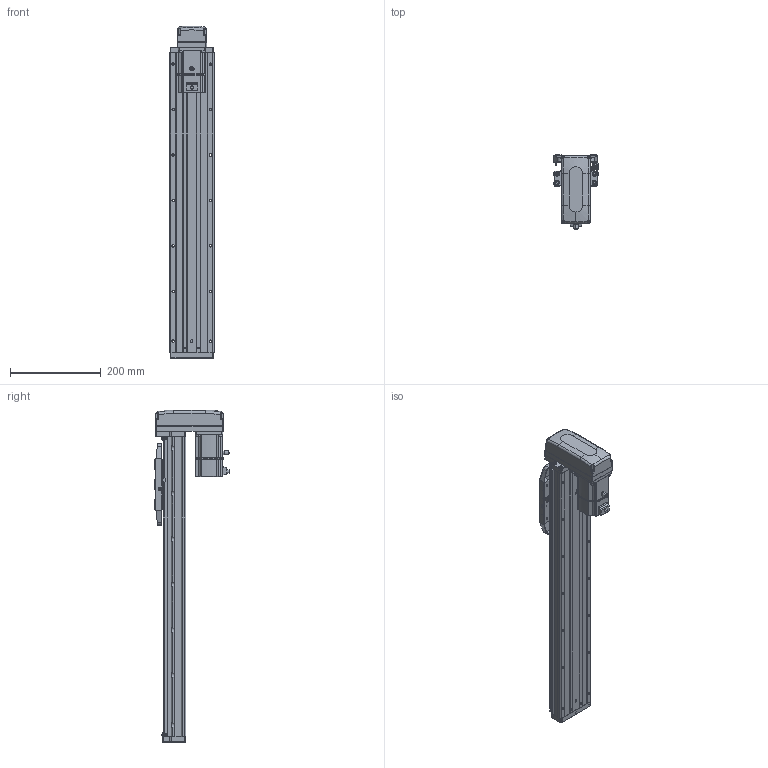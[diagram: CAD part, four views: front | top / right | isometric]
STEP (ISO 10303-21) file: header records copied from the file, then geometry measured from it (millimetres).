
FILE_DESCRIPTION (( 'STEP AP203' ), '1' );
FILE_NAME ('CTHA100-450-BM-M20-C4L.step', '2022-07-06T09:04:05', ( '微软用户' ), ( '微软中国' ), 'SwSTEP 2.0', 'SolidWorks 2020', '' );
FILE_SCHEMA (( 'CONFIG_CONTROL_DESIGN' ));
Length unit declared in the file: millimetre
Products named in the file (19): KTHA100-001_660; GBT77-2000 M3×3; GBT 70.3-M3℅6; KTHA100-004; GBT 70.1-M3℅6; CTHA86-015-1_CTHA86-015-2; KTHA100-005; GBT70.1 M5℅16; CTHA86-033; GB¨uT 70.2-M3¡Á5_M3¡Á6; CTHA60-016; CTHA100-450-BM-M20-C4L; EE_SX911P_R; _X2_4E0983F1_X0_200W_1; CTHA60-017; CTHA100-002; CTHA60-021; CTHA86-030; CTHA100-031
Assembly tree (64 placements, depth 2):
  CTHA100-450-BM-M20-C4L
    KTHA100-001_660
    KTHA100-004
    KTHA100-005
    GB¨uT 70.2-M3¡Á5_M3¡Á6  x10
    EE_SX911P_R  x3
    CTHA60-017  x3
    CTHA60-021  x2
    GBT77-2000 M3×3  x6
    GBT 70.1-M3℅6  x10
    GBT70.1 M5℅16  x14
    CTHA60-016  x2
    _X2_4E0983F1_X0_200W_1
    CTHA100-002
    CTHA100-031
    CTHA86-030  x2
    GBT 70.3-M3℅6  x4
    CTHA86-015-1_CTHA86-015-2
    CTHA86-033
Bounding box: 98.82 x 163.2 x 731 mm (x, y, z)
Volume: 3248905.3 mm3; surface area: 559317.6 mm2
Topology: 66 solids, 66 shells, 2649 faces, 6359 edges, 3940 vertices
Faces by surface type: plane 1380, cylinder 695, cone 351, torus 124, bspline 75, sphere 24
Entity records: 45346 total; most frequent: CARTESIAN_POINT 8923, DIRECTION 6984, ORIENTED_EDGE 6834, EDGE_CURVE 3417, AXIS2_PLACEMENT_3D 2373, LINE 2238, VECTOR 2238, VERTEX_POINT 2160
